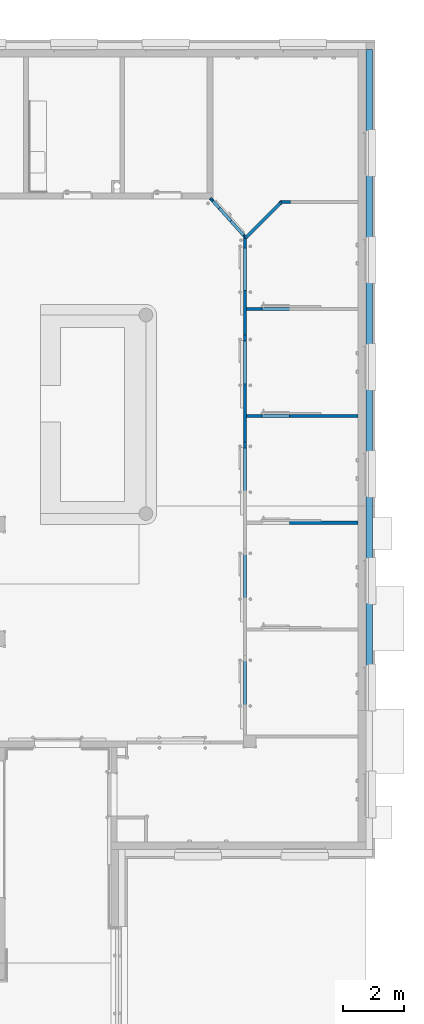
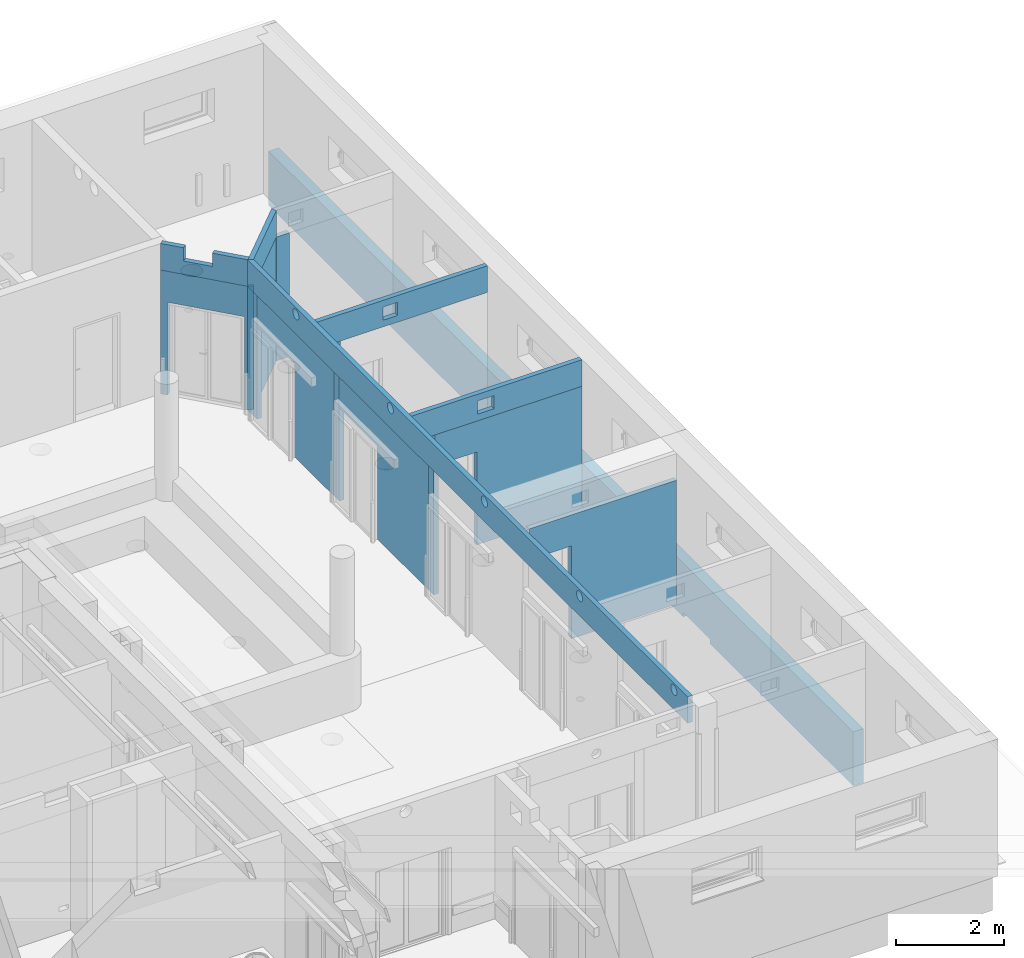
# One storey, part 58 of 140: 20 walls, 14 openings.
"""IFC4 building model written with IfcOpenShell, lengths in metres."""

from ifc_helpers import new_model, entity, si_unit, converted_unit, derived_unit, frame, frame_2d, origin, origin_with_axes, place, context, subcontext, project, spatial, polyline, rectangle, outline, extrude, material, layer, layer_set, layer_usage, element, save


model = new_model("IFC4")

# Units and contexts
model_context = context("Model", 3, precision=1e-05, world=origin())
body_context = subcontext(model_context, "Body", "Model", "MODEL_VIEW")
ifc_project = project(units=[si_unit("LENGTHUNIT", "METRE"), si_unit("AREAUNIT", "SQUARE_METRE"), si_unit("VOLUMEUNIT", "CUBIC_METRE"), si_unit("MASSUNIT", "GRAM", prefix="KILO"), converted_unit("PLANEANGLEUNIT", "DEGREE", entity("IfcPlaneAngleMeasure", 0.0174532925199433), si_unit("PLANEANGLEUNIT", "RADIAN"), dimensions=[0, 0, 0, 0, 0, 0, 0]), derived_unit("THERMALTRANSMITTANCEUNIT", [(si_unit("POWERUNIT", "WATT"), 1), (si_unit("THERMODYNAMICTEMPERATUREUNIT", "KELVIN"), -1), (si_unit("LENGTHUNIT", "METRE"), -2)]), derived_unit("VOLUMETRICFLOWRATEUNIT", [(si_unit("LENGTHUNIT", "METRE"), 3), (converted_unit("TIMEUNIT", "hour", entity("IfcTimeMeasure", 3600.0), si_unit("TIMEUNIT", "SECOND"), dimensions=[0, 0, 1, 0, 0, 0, 0]), -1), (si_unit("LENGTHUNIT", "METRE"), -1)])], contexts=[model_context])

# Site, building, storey
site_placement = place(None, origin())
site = spatial("IfcSite", under=ifc_project, at=site_placement, Name="3. ASŘ", CompositionType="ELEMENT")
building_placement = place(site_placement, origin())
building = spatial("IfcBuilding", under=site, at=building_placement, Name="Pavilon C", CompositionType="ELEMENT")
storey_placement = place(building_placement, origin())
storey = spatial("IfcBuildingStorey", under=building, at=storey_placement, Name="Půdorys 1.NP", CompositionType="ELEMENT", Elevation=0.0)

# Wall
ifc_material_1 = material(Name="PROSKLENÁ PŘÍČKA DVOJITÁ")
ifc_layer_1 = layer(ifc_material_1, 0.099999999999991)
ifc_layer_set_1 = layer_set([ifc_layer_1])
ifc_layer_usage_1 = layer_usage(ifc_layer_set_1, "AXIS2", "POSITIVE", 0.0)
wall_1_placement = place(storey_placement, frame((59.9282842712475, 26.3741212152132, 0.0), z_axis=(0.0, 0.0, 1.0), x_axis=(0.707106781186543, 0.707106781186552, 0.0)))
element("IfcWall", 1, at=wall_1_placement, inside=storey, material=ifc_layer_usage_1, Name="PROSKLENÁ PŘÍČKA DVOJITÁ", context=body_context, shape_type="SweptSolid", body=[
    extrude(rectangle(XDim=1.55223304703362, YDim=0.0999999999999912, at=frame_2d((0.776116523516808, 0.0499999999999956), x_axis=(1.0, 0.0))), origin_with_axes(), (0.0, 0.0, 1.0), 2.8),
])

# Wall, opening
ifc_material_2 = material(Name="PROSKLENÁ PŘÍČKA DVOJITÁ")
ifc_layer_2 = layer(ifc_material_2, 0.0999999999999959)
ifc_layer_set_2 = layer_set([ifc_layer_2])
ifc_layer_usage_2 = layer_usage(ifc_layer_set_2, "AXIS2", "POSITIVE", 0.0)
wall_2_placement = place(storey_placement, frame((58.665792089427, 27.65, 0.0), z_axis=(0.0, 0.0, 1.0), x_axis=(0.668228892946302, -0.743955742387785, 0.0)))
wall_2 = element("IfcWall", 2, at=wall_2_placement, inside=storey, material=ifc_layer_usage_2, Name="PROSKLENÁ PŘÍČKA DVOJITÁ", context=body_context, shape_type="SweptSolid", body=[
    extrude(outline(polyline([(-0.939423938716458, 0.843800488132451), (0.757910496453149, 0.843800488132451), (0.752548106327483, 0.943800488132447), (-0.849602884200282, 0.943800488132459), (-0.939423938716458, 0.843800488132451)])), frame((0.939423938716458, -0.843800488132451, 0.0), z_axis=(0.0, 0.0, 1.0), x_axis=(1.0, 0.0, 0.0)), (0.0, 0.0, 1.0), 2.8),
])
opening_1_placement = place(wall_2_placement, frame((0.136584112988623, 6.25277607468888e-16, 0.0), z_axis=(5.68434188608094e-15, 1.0, 0.0), x_axis=(0.0, 0.0, 1.0)))
element("IfcOpeningElement", 3, at=opening_1_placement, cuts=wall_2, Name="Dveřní otvor", ObjectType="Opening", context=body_context, shape_type="SweptSolid", body=[
    extrude(outline(polyline([(0.0, 1.49999999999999), (2.1, 1.49999999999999), (2.1, 0.0), (0.0, 0.0), (0.0, 1.49999999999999)])), origin_with_axes(), (0.0, 0.0, 1.0), 0.100000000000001),
])

# Walls
ifc_material_3 = material(Name="PROSKLENÁ PŘÍČKA PLNÝ PANEL")
ifc_layer_3 = layer(ifc_material_3, 0.1)
ifc_layer_set_3 = layer_set([ifc_layer_3])
ifc_layer_usage_3 = layer_usage(ifc_layer_set_3, "AXIS2", "POSITIVE", 0.0)
wall_3_placement = place(storey_placement, frame((59.9, 26.05, 0.0), z_axis=(0.0, 0.0, 1.0), x_axis=(0.0, 1.0, 0.0)))
element("IfcWall", 4, at=wall_3_placement, inside=storey, material=ifc_layer_usage_3, Name="PROSKLENÁ PŘÍČKA DVOJITÁ", context=body_context, shape_type="SweptSolid", body=[
    extrude(outline(polyline([(0.0, -0.1), (0.29583694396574, -0.1), (0.337258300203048, 0.0), (0.0, 0.0), (0.0, -0.1)])), frame((0.0, 0.1, 0.0), z_axis=(0.0, 0.0, 1.0), x_axis=(1.0, 0.0, 0.0)), (0.0, 0.0, 1.0), 2.8),
])
ifc_material_4 = material(Name="PROSKLENÁ PŘÍČKA PLNÝ PANEL")
ifc_layer_4 = layer(ifc_material_4, 0.1)
ifc_layer_set_4 = layer_set([ifc_layer_4])
ifc_layer_usage_4 = layer_usage(ifc_layer_set_4, "AXIS2", "POSITIVE", 0.0)
wall_4_placement = place(storey_placement, frame((59.9, 23.0, 0.0), z_axis=(0.0, 0.0, 1.0), x_axis=(0.0, 1.0, 0.0)))
element("IfcWall", 5, at=wall_4_placement, inside=storey, material=ifc_layer_usage_4, Name="PROSKLENÁ PŘÍČKA DVOJITÁ", context=body_context, shape_type="SweptSolid", body=[
    extrude(rectangle(XDim=0.2, YDim=0.1, at=frame_2d((0.1, 0.05), x_axis=(1.0, 0.0))), origin_with_axes(), (0.0, 0.0, 1.0), 2.8),
])
ifc_material_5 = material(Name="PROSKLENÁ PŘÍČKA PLNÝ PANEL")
ifc_layer_5 = layer(ifc_material_5, 0.1)
ifc_layer_set_5 = layer_set([ifc_layer_5])
ifc_layer_usage_5 = layer_usage(ifc_layer_set_5, "AXIS2", "POSITIVE", 0.0)
wall_5_placement = place(storey_placement, frame((59.9, 19.5, 0.0), z_axis=(0.0, 0.0, 1.0), x_axis=(0.0, 1.0, 0.0)))
element("IfcWall", 6, at=wall_5_placement, inside=storey, material=ifc_layer_usage_5, Name="PROSKLENÁ PŘÍČKA DVOJITÁ", context=body_context, shape_type="SweptSolid", body=[
    extrude(rectangle(XDim=0.2, YDim=0.1, at=frame_2d((0.1, 0.05), x_axis=(1.0, 0.0))), origin_with_axes(), (0.0, 0.0, 1.0), 2.8),
])

# Wall, opening
ifc_material_6 = material(Name="PROSKLENÁ PŘÍČKA DVOJITÁ")
ifc_layer_6 = layer(ifc_material_6, 0.1)
ifc_layer_set_6 = layer_set([ifc_layer_6])
ifc_layer_usage_6 = layer_usage(ifc_layer_set_6, "AXIS2", "POSITIVE", 0.0)
wall_6_placement = place(storey_placement, frame((59.9, 23.2, 0.0), z_axis=(0.0, 0.0, 1.0), x_axis=(0.0, 1.0, 0.0)))
wall_6 = element("IfcWall", 7, at=wall_6_placement, inside=storey, material=ifc_layer_usage_6, Name="PROSKLENÁ PŘÍČKA DVOJITÁ", context=body_context, shape_type="SweptSolid", body=[
    extrude(rectangle(XDim=2.85, YDim=0.1, at=frame_2d((1.425, 0.05), x_axis=(1.0, 0.0))), origin_with_axes(), (0.0, 0.0, 1.0), 2.8),
])
opening_2_placement = place(wall_6_placement, frame((2.85, 0.1, 0.0), z_axis=(0.0, -1.0, 0.0), x_axis=(0.0, 0.0, 1.0)))
element("IfcOpeningElement", 8, at=opening_2_placement, cuts=wall_6, Name="Dveřní otvor", ObjectType="Opening", context=body_context, shape_type="SweptSolid", body=[
    extrude(outline(polyline([(0.0, 1.4), (2.1, 1.4), (2.1, 0.0), (0.0, 0.0), (0.0, 1.4)])), origin_with_axes(), (0.0, 0.0, 1.0), 0.1),
])

ifc_material_7 = material(Name="PROSKLENÁ PŘÍČKA DVOJITÁ")
ifc_layer_7 = layer(ifc_material_7, 0.1)
ifc_layer_set_7 = layer_set([ifc_layer_7])
ifc_layer_usage_7 = layer_usage(ifc_layer_set_7, "AXIS2", "POSITIVE", 0.0)
wall_7_placement = place(storey_placement, frame((59.8, 23.0, 0.0), z_axis=(0.0, 0.0, 1.0), x_axis=(0.0, -1.0, 0.0)))
wall_7 = element("IfcWall", 9, at=wall_7_placement, inside=storey, material=ifc_layer_usage_7, Name="PROSKLENÁ PŘÍČKA DVOJITÁ", context=body_context, shape_type="SweptSolid", body=[
    extrude(rectangle(XDim=3.30000000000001, YDim=0.1, at=frame_2d((1.65, 0.05), x_axis=(1.0, 0.0))), origin_with_axes(), (0.0, 0.0, 1.0), 2.8),
])
opening_3_placement = place(wall_7_placement, frame((0.0, 0.0, 0.0), z_axis=(0.0, 1.0, 0.0), x_axis=(0.0, 0.0, 1.0)))
element("IfcOpeningElement", 10, at=opening_3_placement, cuts=wall_7, Name="Dveřní otvor", ObjectType="Opening", context=body_context, shape_type="SweptSolid", body=[
    extrude(outline(polyline([(0.0, 1.4), (2.1, 1.4), (2.1, 0.0), (0.0, 0.0), (0.0, 1.4)])), origin_with_axes(), (0.0, 0.0, 1.0), 0.1),
])

ifc_material_8 = material(Name="PROSKLENÁ PŘÍČKA DVOJITÁ")
ifc_layer_8 = layer(ifc_material_8, 0.1)
ifc_layer_set_8 = layer_set([ifc_layer_8])
ifc_layer_usage_8 = layer_usage(ifc_layer_set_8, "AXIS2", "POSITIVE", 0.0)
wall_8_placement = place(storey_placement, frame((60.4, 17.0, 0.0)))
wall_8 = element("IfcWall", 11, at=wall_8_placement, inside=storey, material=ifc_layer_usage_8, Name="PROSKLENÁ PŘÍČKA DVOJITÁ", context=body_context, shape_type="SweptSolid", body=[
    extrude(rectangle(XDim=3.15, YDim=0.1, at=frame_2d((1.575, 0.05), x_axis=(1.0, 0.0))), origin_with_axes(), (0.0, 0.0, 1.0), 2.8),
])
opening_4_placement = place(wall_8_placement, frame((0.0, 0.0, 0.0), z_axis=(0.0, 1.0, 0.0), x_axis=(0.0, 0.0, 1.0)))
element("IfcOpeningElement", 12, at=opening_4_placement, cuts=wall_8, Name="Dveřní otvor", ObjectType="Opening", context=body_context, shape_type="SweptSolid", body=[
    extrude(outline(polyline([(0.0, 0.9), (2.1, 0.9), (2.1, 0.0), (0.0, 0.0), (0.0, 0.9)])), origin_with_axes(), (0.0, 0.0, 1.0), 0.1),
])

ifc_material_9 = material(Name="PROSKLENÁ PŘÍČKA DVOJITÁ")
ifc_layer_9 = layer(ifc_material_9, 0.1)
ifc_layer_set_9 = layer_set([ifc_layer_9])
ifc_layer_usage_9 = layer_usage(ifc_layer_set_9, "AXIS2", "POSITIVE", 0.0)
wall_9_placement = place(storey_placement, frame((60.4, 20.5, 0.0)))
wall_9 = element("IfcWall", 13, at=wall_9_placement, inside=storey, material=ifc_layer_usage_9, Name="PROSKLENÁ PŘÍČKA DVOJITÁ", context=body_context, shape_type="SweptSolid", body=[
    extrude(rectangle(XDim=3.15, YDim=0.1, at=frame_2d((1.575, 0.05), x_axis=(1.0, 0.0))), origin_with_axes(), (0.0, 0.0, 1.0), 2.8),
])
opening_5_placement = place(wall_9_placement, frame((0.0, 0.0, 0.0), z_axis=(0.0, 1.0, 0.0), x_axis=(0.0, 0.0, 1.0)))
element("IfcOpeningElement", 14, at=opening_5_placement, cuts=wall_9, Name="Dveřní otvor", ObjectType="Opening", context=body_context, shape_type="SweptSolid", body=[
    extrude(outline(polyline([(0.0, 0.9), (2.1, 0.9), (2.1, 0.0), (0.0, 0.0), (0.0, 0.9)])), origin_with_axes(), (0.0, 0.0, 1.0), 0.1),
])

# Walls
ifc_material_10 = material(Name="PROSKLENÁ PŘÍČKA PLNÝ PANEL")
ifc_layer_10 = layer(ifc_material_10, 0.1)
ifc_layer_set_10 = layer_set([ifc_layer_10])
ifc_layer_usage_10 = layer_usage(ifc_layer_set_10, "AXIS2", "POSITIVE", 0.0)
wall_10_placement = place(storey_placement, frame((60.4, 20.6, 0.0), z_axis=(0.0, 0.0, 1.0), x_axis=(-1.0, 0.0, 0.0)))
element("IfcWall", 15, at=wall_10_placement, inside=storey, material=ifc_layer_usage_10, Name="PROSKLENÁ PŘÍČKA DVOJITÁ", context=body_context, shape_type="SweptSolid", body=[
    extrude(rectangle(XDim=0.5, YDim=0.1, at=frame_2d((0.25, 0.05), x_axis=(1.0, 0.0))), origin_with_axes(), (0.0, 0.0, 1.0), 2.8),
])
ifc_material_11 = material(Name="PROSKLENÁ PŘÍČKA PLNÝ PANEL")
ifc_layer_11 = layer(ifc_material_11, 0.1)
ifc_layer_set_11 = layer_set([ifc_layer_11])
ifc_layer_usage_11 = layer_usage(ifc_layer_set_11, "AXIS2", "POSITIVE", 0.0)
wall_11_placement = place(storey_placement, frame((60.4, 24.1, 0.0), z_axis=(0.0, 0.0, 1.0), x_axis=(-1.0, 0.0, 0.0)))
element("IfcWall", 16, at=wall_11_placement, inside=storey, material=ifc_layer_usage_11, Name="PROSKLENÁ PŘÍČKA DVOJITÁ", context=body_context, shape_type="SweptSolid", body=[
    extrude(rectangle(XDim=0.5, YDim=0.1, at=frame_2d((0.25, 0.05), x_axis=(1.0, 0.0))), origin_with_axes(), (0.0, 0.0, 1.0), 2.8),
])
ifc_material_12 = material(Name="PROSKLENÁ PŘÍČKA PLNÝ PANEL")
ifc_layer_12 = layer(ifc_material_12, 0.1)
ifc_layer_set_12 = layer_set([ifc_layer_12])
ifc_layer_usage_12 = layer_usage(ifc_layer_set_12, "AXIS2", "POSITIVE", 0.0)
wall_12_placement = place(storey_placement, frame((61.0541630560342, 27.5, 0.0)))
element("IfcWall", 17, at=wall_12_placement, inside=storey, material=ifc_layer_usage_12, Name="PROSKLENÁ PŘÍČKA DVOJITÁ", context=body_context, shape_type="SweptSolid", body=[
    extrude(outline(polyline([(0.0414213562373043, 0.0), (0.321421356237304, 0.0), (0.321421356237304, 0.1), (0.0, 0.1), (0.0414213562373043, 0.0)])), frame((-0.0414213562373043, 0.0, 0.0), z_axis=(0.0, 0.0, 1.0), x_axis=(1.0, 0.0, 0.0)), (0.0, 0.0, 1.0), 2.8),
])
ifc_material_13 = material(Name="PROSKLENÁ PŘÍČKA PLNÝ PANEL")
ifc_layer_13 = layer(ifc_material_13, 0.0999999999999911)
ifc_layer_set_13 = layer_set([ifc_layer_13])
ifc_layer_usage_13 = layer_usage(ifc_layer_set_13, "AXIS2", "POSITIVE", 0.0)
wall_13_placement = place(storey_placement, frame((61.0258787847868, 27.4717157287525, 0.0), z_axis=(0.0, 0.0, 1.0), x_axis=(0.707106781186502, 0.707106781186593, 0.0)))
element("IfcWall", 18, at=wall_13_placement, inside=storey, material=ifc_layer_usage_13, Name="PROSKLENÁ PŘÍČKA DVOJITÁ", context=body_context, shape_type="SweptSolid", body=[
    extrude(outline(polyline([(0.0499999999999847, -0.0499999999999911), (0.0899999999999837, -0.0499999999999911), (0.131421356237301, 0.05), (0.0499999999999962, 0.0499999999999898), (0.0499999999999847, -0.0499999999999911)])), frame((-0.0499999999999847, 0.0499999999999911, 0.0), z_axis=(0.0, 0.0, 1.0), x_axis=(1.0, 0.0, 0.0)), (0.0, 0.0, 1.0), 2.8),
])
ifc_material_14 = material(Name="PROSKLENÁ PŘÍČKA PLNÝ PANEL")
ifc_layer_14 = layer(ifc_material_14, 0.0999999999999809)
ifc_layer_set_14 = layer_set([ifc_layer_14])
ifc_layer_usage_14 = layer_usage(ifc_layer_set_14, "AXIS2", "POSITIVE", 0.0)
wall_14_placement = place(storey_placement, frame((59.9, 26.3458369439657, 0.0), z_axis=(0.0, 0.0, 1.0), x_axis=(0.707106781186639, 0.707106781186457, 0.0)))
element("IfcWall", 19, at=wall_14_placement, inside=storey, material=ifc_layer_usage_14, Name="PROSKLENÁ PŘÍČKA DVOJITÁ", context=body_context, shape_type="SweptSolid", body=[
    extrude(outline(polyline([(0.0707106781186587, -0.0707106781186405), (0.11071067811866, -0.0707106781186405), (0.110710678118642, 0.0292893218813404), (0.0292893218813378, 0.0292893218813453), (0.0707106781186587, -0.0707106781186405)])), frame((-0.0707106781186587, 0.0707106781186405, 0.0), z_axis=(0.0, 0.0, 1.0), x_axis=(1.0, 0.0, 0.0)), (0.0, 0.0, 1.0), 2.8),
])

# Wall, opening
ifc_material_15 = material(Name="PERIMETR")
ifc_layer_15 = layer(ifc_material_15, 0.22)
ifc_layer_set_15 = layer_set([ifc_layer_15])
ifc_layer_usage_15 = layer_usage(ifc_layer_set_15, "AXIS2", "POSITIVE", 0.0)
wall_15_placement = place(storey_placement, frame((63.8, 32.55, -0.5), z_axis=(0.0, 0.0, 1.0), x_axis=(0.0, -1.0, 0.0)))
wall_15 = element("IfcWall", 20, at=wall_15_placement, inside=storey, material=ifc_layer_usage_15, Name="PERIMETR", context=body_context, shape_type="SweptSolid", body=[
    extrude(rectangle(XDim=21.65, YDim=0.22, at=frame_2d((10.825, 0.11), x_axis=(1.0, 0.0))), origin_with_axes(), (0.0, 0.0, 1.0), 1.22),
])
opening_6_placement = place(wall_15_placement, frame((16.35, 0.22, 0.0), z_axis=(0.0, -1.0, 0.0), x_axis=(0.0, 0.0, 1.0)))
element("IfcOpeningElement", 21, at=opening_6_placement, cuts=wall_15, Name="Prostup stěnou", ObjectType="Opening", context=body_context, shape_type="SweptSolid", body=[
    extrude(outline(polyline([(0.0, 0.999999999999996), (0.1, 0.999999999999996), (0.1, 0.0), (0.0, 0.0), (0.0, 0.999999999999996)])), origin_with_axes(), (0.0, 0.0, 1.0), 0.22),
])

# Wall, openings
ifc_material_16 = material(Name="SDK - OCEL. KCE + 2 OPLÁŠTĚNÍ")
ifc_layer_16 = layer(ifc_material_16, 0.0999999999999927)
ifc_layer_set_16 = layer_set([ifc_layer_16])
ifc_layer_usage_16 = layer_usage(ifc_layer_set_16, "AXIS2", "POSITIVE", 0.0)
wall_16_placement = place(storey_placement, frame((59.9, 10.1, 2.8), z_axis=(0.0, 0.0, 1.0), x_axis=(-8.95731951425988e-16, 1.0, 0.0)))
wall_16 = element("IfcWall", 22, at=wall_16_placement, inside=storey, material=ifc_layer_usage_16, Name="SDK - OCEL. KCE + 2 OPLÁŠTĚNÍ", context=body_context, shape_type="SweptSolid", body=[
    extrude(outline(polyline([(-8.95731951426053e-17, -0.100000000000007), (16.2458369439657, -0.100000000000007), (16.2872583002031, -1.458901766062e-14), (-6.5173077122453e-30, -7.27595761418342e-15), (-8.95731951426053e-17, -0.100000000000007)])), frame((8.95731951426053e-17, 0.100000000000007, 0.0), z_axis=(0.0, 0.0, 1.0), x_axis=(1.0, 0.0, 0.0)), (0.0, 0.0, 1.0), 0.6),
])
opening_7_placement = place(wall_16_placement, frame((14.6165, 0.0999999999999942, 0.337500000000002), z_axis=(0.0, -1.0, 0.0), x_axis=(0.0, 0.0, 1.0)))
element("IfcOpeningElement", 23, at=opening_7_placement, cuts=wall_16, Name="VZT", ObjectType="Opening", context=body_context, shape_type="SweptSolid", body=[
    extrude(outline(polyline([(0.106457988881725, 0.0), (0.0947469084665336, 0.00123088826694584), (0.0832286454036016, 0.0036791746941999), (0.0720293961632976, 0.00731803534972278), (0.0612718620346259, 0.0121076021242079), (0.0510739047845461, 0.0179953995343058), (0.0415472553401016, 0.0249169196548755), (0.0327962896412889, 0.032796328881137), (0.0249168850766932, 0.0415472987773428), (0.017995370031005, 0.0510739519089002), (0.0121075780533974, 0.0612719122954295), (0.00731801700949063, 0.0720294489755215), (0.00367916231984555, 0.0832287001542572), (0.00123088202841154, 0.0947469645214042), (0.0, 0.106458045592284), (2.03247554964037e-09, 0.11823363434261), (0.00123088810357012, 0.129944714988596), (0.00367917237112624, 0.141462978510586), (0.00731803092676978, 0.152662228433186), (0.0121075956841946, 0.163419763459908), (0.0179953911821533, 0.17361772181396), (0.0249169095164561, 0.183144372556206), (0.0327963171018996, 0.191895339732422), (0.0415472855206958, 0.199774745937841), (0.0510739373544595, 0.206696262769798), (0.0612718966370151, 0.212584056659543), (0.0720294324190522, 0.217373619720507), (0.0832286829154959, 0.221012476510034), (0.0947469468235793, 0.22346075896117), (0.106458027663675, 0.224691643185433), (0.118233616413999, 0.2246916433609), (0.129944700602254, 0.223460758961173), (0.141462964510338, 0.221012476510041), (0.152662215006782, 0.217373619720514), (0.16341975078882, 0.212584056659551), (0.173617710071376, 0.206696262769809), (0.183144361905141, 0.199774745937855), (0.191895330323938, 0.191895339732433), (0.199774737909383, 0.18314437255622), (0.206696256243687, 0.173617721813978), (0.212584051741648, 0.163419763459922), (0.217373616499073, 0.152662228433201), (0.221012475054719, 0.141462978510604), (0.223460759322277, 0.129944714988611), (0.224691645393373, 0.118233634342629), (0.22469164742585, 0.106458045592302), (0.22346076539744, 0.0947469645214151), (0.221012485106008, 0.0832287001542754), (0.217373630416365, 0.0720294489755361), (0.212584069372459, 0.0612719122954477), (0.206696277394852, 0.0510739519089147), (0.199774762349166, 0.0415472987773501), (0.191895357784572, 0.0327963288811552), (0.18314439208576, 0.0249169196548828), (0.173617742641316, 0.0179953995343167), (0.163419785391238, 0.0121076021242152), (0.152662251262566, 0.00731803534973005), (0.141463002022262, 0.00367917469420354), (0.129944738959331, 0.00123088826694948), (0.11823365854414, 0.0), (0.106457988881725, 0.0)])), origin_with_axes(), (0.0, 0.0, 1.0), 0.0999999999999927),
])
opening_8_placement = place(wall_16_placement, frame((11.1195, 0.09999999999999, 0.337500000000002), z_axis=(0.0, -1.0, 0.0), x_axis=(0.0, 0.0, 1.0)))
element("IfcOpeningElement", 24, at=opening_8_placement, cuts=wall_16, Name="VZT", ObjectType="Opening", context=body_context, shape_type="SweptSolid", body=[
    extrude(outline(polyline([(0.106457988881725, 0.0), (0.0947469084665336, 0.00123088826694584), (0.0832286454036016, 0.0036791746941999), (0.0720293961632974, 0.00731803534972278), (0.0612718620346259, 0.0121076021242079), (0.0510739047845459, 0.0179953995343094), (0.0415472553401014, 0.0249169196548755), (0.0327962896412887, 0.0327963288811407), (0.0249168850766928, 0.0415472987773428), (0.017995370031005, 0.0510739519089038), (0.0121075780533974, 0.0612719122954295), (0.00731801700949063, 0.0720294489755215), (0.00367916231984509, 0.0832287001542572), (0.00123088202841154, 0.0947469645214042), (0.0, 0.106458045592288), (2.03247554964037e-09, 0.118233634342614), (0.0012308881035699, 0.129944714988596), (0.00367917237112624, 0.141462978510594), (0.00731803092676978, 0.152662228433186), (0.0121075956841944, 0.163419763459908), (0.0179953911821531, 0.173617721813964), (0.0249169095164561, 0.183144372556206), (0.0327963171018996, 0.191895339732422), (0.0415472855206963, 0.199774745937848), (0.0510739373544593, 0.206696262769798), (0.0612718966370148, 0.212584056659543), (0.0720294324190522, 0.217373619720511), (0.0832286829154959, 0.221012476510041), (0.094746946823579, 0.223460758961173), (0.106458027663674, 0.22469164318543), (0.118233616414, 0.2246916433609), (0.129944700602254, 0.22346075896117), (0.141462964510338, 0.221012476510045), (0.152662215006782, 0.217373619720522), (0.16341975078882, 0.212584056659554), (0.173617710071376, 0.206696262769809), (0.183144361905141, 0.199774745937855), (0.191895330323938, 0.19189533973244), (0.199774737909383, 0.18314437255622), (0.206696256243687, 0.173617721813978), (0.212584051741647, 0.163419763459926), (0.217373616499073, 0.152662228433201), (0.221012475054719, 0.141462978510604), (0.223460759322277, 0.129944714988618), (0.224691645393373, 0.118233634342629), (0.22469164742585, 0.106458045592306), (0.22346076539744, 0.0947469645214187), (0.221012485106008, 0.0832287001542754), (0.217373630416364, 0.0720294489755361), (0.212584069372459, 0.0612719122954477), (0.206696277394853, 0.0510739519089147), (0.199774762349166, 0.0415472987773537), (0.191895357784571, 0.0327963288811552), (0.18314439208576, 0.0249169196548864), (0.173617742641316, 0.0179953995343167), (0.163419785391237, 0.0121076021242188), (0.152662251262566, 0.00731803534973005), (0.141463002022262, 0.00367917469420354), (0.129944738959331, 0.00123088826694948), (0.11823365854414, 0.0), (0.106457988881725, 0.0)])), origin_with_axes(), (0.0, 0.0, 1.0), 0.0999999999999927),
])
opening_9_placement = place(wall_16_placement, frame((7.63441623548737, 0.0999999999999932, 0.337500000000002), z_axis=(0.0, -1.0, 0.0), x_axis=(0.0, 0.0, 1.0)))
element("IfcOpeningElement", 25, at=opening_9_placement, cuts=wall_16, Name="VZT", ObjectType="Opening", context=body_context, shape_type="SweptSolid", body=[
    extrude(outline(polyline([(0.106457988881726, 0.0), (0.094746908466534, 0.00123088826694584), (0.0832286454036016, 0.00367917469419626), (0.0720293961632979, 0.00731803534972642), (0.0612718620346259, 0.0121076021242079), (0.0510739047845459, 0.0179953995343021), (0.0415472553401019, 0.0249169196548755), (0.0327962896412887, 0.0327963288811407), (0.0249168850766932, 0.0415472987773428), (0.0179953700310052, 0.0510739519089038), (0.0121075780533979, 0.0612719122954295), (0.00731801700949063, 0.0720294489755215), (0.00367916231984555, 0.0832287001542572), (0.00123088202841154, 0.0947469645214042), (0.0, 0.106458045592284), (2.03247554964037e-09, 0.118233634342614), (0.00123088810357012, 0.129944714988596), (0.00367917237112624, 0.141462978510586), (0.00731803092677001, 0.152662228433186), (0.0121075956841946, 0.163419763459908), (0.0179953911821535, 0.173617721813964), (0.0249169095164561, 0.183144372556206), (0.0327963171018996, 0.191895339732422), (0.0415472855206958, 0.199774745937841), (0.0510739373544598, 0.206696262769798), (0.0612718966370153, 0.212584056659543), (0.0720294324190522, 0.217373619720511), (0.0832286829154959, 0.221012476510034), (0.0947469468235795, 0.22346075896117), (0.106458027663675, 0.22469164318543), (0.118233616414, 0.2246916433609), (0.129944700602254, 0.22346075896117), (0.141462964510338, 0.221012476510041), (0.152662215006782, 0.217373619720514), (0.16341975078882, 0.212584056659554), (0.173617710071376, 0.206696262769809), (0.183144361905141, 0.199774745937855), (0.191895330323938, 0.191895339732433), (0.199774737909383, 0.18314437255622), (0.206696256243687, 0.173617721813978), (0.212584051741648, 0.163419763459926), (0.217373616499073, 0.152662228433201), (0.221012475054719, 0.141462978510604), (0.223460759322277, 0.129944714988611), (0.224691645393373, 0.118233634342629), (0.22469164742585, 0.106458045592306), (0.22346076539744, 0.0947469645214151), (0.221012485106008, 0.0832287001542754), (0.217373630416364, 0.0720294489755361), (0.212584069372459, 0.0612719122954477), (0.206696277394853, 0.0510739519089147), (0.199774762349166, 0.0415472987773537), (0.191895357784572, 0.0327963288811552), (0.18314439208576, 0.0249169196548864), (0.173617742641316, 0.0179953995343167), (0.163419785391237, 0.0121076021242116), (0.152662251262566, 0.00731803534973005), (0.141463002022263, 0.00367917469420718), (0.129944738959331, 0.00123088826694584), (0.11823365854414, 0.0), (0.106457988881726, 0.0)])), origin_with_axes(), (0.0, 0.0, 1.0), 0.0999999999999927),
])
opening_10_placement = place(wall_16_placement, frame((4.1145, 0.100000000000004, 0.337500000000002), z_axis=(0.0, -1.0, 0.0), x_axis=(0.0, 0.0, 1.0)))
element("IfcOpeningElement", 26, at=opening_10_placement, cuts=wall_16, Name="VZT", ObjectType="Opening", context=body_context, shape_type="SweptSolid", body=[
    extrude(outline(polyline([(0.106457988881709, 0.0), (0.0947469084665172, 0.00123088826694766), (0.0832286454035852, 0.00367917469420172), (0.0720293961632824, 0.00731803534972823), (0.0612718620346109, 0.012107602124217), (0.0510739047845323, 0.017995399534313), (0.0415472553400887, 0.0249169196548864), (0.0327962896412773, 0.0327963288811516), (0.0249168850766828, 0.0415472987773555), (0.0179953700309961, 0.0510739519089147), (0.0121075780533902, 0.0612719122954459), (0.00731801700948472, 0.0720294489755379), (0.003679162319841, 0.0832287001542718), (0.00123088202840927, 0.0947469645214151), (0.0, 0.106458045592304), (2.03247736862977e-09, 0.118233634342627), (0.00123088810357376, 0.129944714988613), (0.00367917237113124, 0.141462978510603), (0.00731803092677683, 0.152662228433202), (0.0121075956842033, 0.163419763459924), (0.0179953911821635, 0.173617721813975), (0.024916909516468, 0.183144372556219), (0.0327963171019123, 0.191895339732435), (0.0415472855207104, 0.199774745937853), (0.0510739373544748, 0.206696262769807), (0.0612718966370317, 0.212584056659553), (0.0720294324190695, 0.217373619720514), (0.0832286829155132, 0.221012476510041), (0.0947469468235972, 0.223460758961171), (0.106458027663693, 0.224691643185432), (0.118233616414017, 0.224691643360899), (0.129944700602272, 0.223460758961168), (0.141462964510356, 0.221012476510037), (0.152662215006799, 0.217373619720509), (0.163419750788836, 0.212584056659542), (0.173617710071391, 0.206696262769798), (0.183144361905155, 0.199774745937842), (0.191895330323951, 0.191895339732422), (0.199774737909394, 0.183144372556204), (0.206696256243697, 0.17361772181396), (0.212584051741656, 0.163419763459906), (0.21737361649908, 0.152662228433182), (0.221012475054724, 0.141462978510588), (0.22346075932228, 0.129944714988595), (0.224691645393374, 0.11823363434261), (0.22469164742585, 0.106458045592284), (0.223460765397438, 0.0947469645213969), (0.221012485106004, 0.0832287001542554), (0.217373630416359, 0.0720294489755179), (0.212584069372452, 0.0612719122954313), (0.206696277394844, 0.0510739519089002), (0.199774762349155, 0.0415472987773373), (0.19189535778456, 0.0327963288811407), (0.183144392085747, 0.0249169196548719), (0.173617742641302, 0.0179953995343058), (0.163419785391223, 0.0121076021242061), (0.152662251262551, 0.0073180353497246), (0.141463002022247, 0.00367917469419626), (0.129944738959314, 0.00123088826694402), (0.118233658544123, 0.0), (0.106457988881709, 0.0)])), origin_with_axes(), (0.0, 0.0, 1.0), 0.0999999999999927),
])
opening_11_placement = place(wall_16_placement, frame((0.619499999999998, 0.100000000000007, 0.337500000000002), z_axis=(-1.13686837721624e-15, -1.0, 0.0), x_axis=(0.0, 0.0, 1.0)))
element("IfcOpeningElement", 27, at=opening_11_placement, cuts=wall_16, Name="VZT", ObjectType="Opening", context=body_context, shape_type="SweptSolid", body=[
    extrude(outline(polyline([(0.106457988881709, 0.0), (0.0947469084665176, 0.00123088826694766), (0.0832286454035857, 0.00367917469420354), (0.0720293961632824, 0.00731803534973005), (0.0612718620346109, 0.0121076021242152), (0.0510739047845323, 0.017995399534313), (0.0415472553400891, 0.0249169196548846), (0.0327962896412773, 0.0327963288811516), (0.0249168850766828, 0.0415472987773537), (0.0179953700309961, 0.0510739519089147), (0.0121075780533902, 0.0612719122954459), (0.00731801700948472, 0.0720294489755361), (0.00367916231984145, 0.0832287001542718), (0.00123088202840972, 0.0947469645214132), (0.0, 0.106458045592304), (2.03247736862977e-09, 0.118233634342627), (0.00123088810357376, 0.129944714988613), (0.0036791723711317, 0.141462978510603), (0.00731803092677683, 0.152662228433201), (0.0121075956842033, 0.163419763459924), (0.0179953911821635, 0.173617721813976), (0.024916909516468, 0.183144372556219), (0.0327963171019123, 0.191895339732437), (0.0415472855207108, 0.199774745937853), (0.0510739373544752, 0.206696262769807), (0.0612718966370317, 0.212584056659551), (0.0720294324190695, 0.217373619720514), (0.0832286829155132, 0.221012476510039), (0.0947469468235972, 0.22346075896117), (0.106458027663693, 0.224691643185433), (0.118233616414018, 0.224691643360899), (0.129944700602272, 0.22346075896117), (0.141462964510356, 0.221012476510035), (0.152662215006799, 0.217373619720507), (0.163419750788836, 0.212584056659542), (0.173617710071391, 0.206696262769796), (0.183144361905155, 0.199774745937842), (0.191895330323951, 0.191895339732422), (0.199774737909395, 0.183144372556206), (0.206696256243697, 0.17361772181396), (0.212584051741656, 0.163419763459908), (0.21737361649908, 0.152662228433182), (0.221012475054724, 0.141462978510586), (0.22346075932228, 0.129944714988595), (0.224691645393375, 0.11823363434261), (0.22469164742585, 0.106458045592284), (0.223460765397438, 0.0947469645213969), (0.221012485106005, 0.0832287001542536), (0.217373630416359, 0.0720294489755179), (0.212584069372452, 0.0612719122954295), (0.206696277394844, 0.0510739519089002), (0.199774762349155, 0.0415472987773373), (0.19189535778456, 0.0327963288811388), (0.183144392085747, 0.0249169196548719), (0.173617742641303, 0.0179953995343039), (0.163419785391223, 0.0121076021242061), (0.152662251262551, 0.00731803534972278), (0.141463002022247, 0.00367917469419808), (0.129944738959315, 0.00123088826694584), (0.118233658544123, 0.0), (0.106457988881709, 0.0)])), origin_with_axes(), (0.0, 0.0, 1.0), 0.0999999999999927),
])

# Wall
ifc_material_17 = material(Name="SDK - OCEL. KCE + 2 OPLÁŠTĚNÍ")
ifc_layer_17 = layer(ifc_material_17, 0.0999999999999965)
ifc_layer_set_17 = layer_set([ifc_layer_17])
ifc_layer_usage_17 = layer_usage(ifc_layer_set_17, "AXIS2", "POSITIVE", 0.0)
wall_17_placement = place(storey_placement, frame((59.9, 26.3458369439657, 2.8), z_axis=(0.0, 0.0, 1.0), x_axis=(0.70710678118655, 0.707106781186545, 0.0)))
element("IfcWall", 28, at=wall_17_placement, inside=storey, material=ifc_layer_usage_17, Name="SDK - OCEL. KCE + 2 OPLÁŠTĚNÍ", context=body_context, shape_type="SweptSolid", body=[
    extrude(outline(polyline([(0.070710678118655, -0.0707106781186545), (1.70294372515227, -0.0707106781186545), (1.74436508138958, 0.0292893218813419), (0.129432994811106, 0.0292893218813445), (0.129145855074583, 0.0239346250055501), (0.029289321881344, 0.0292893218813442), (0.070710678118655, -0.0707106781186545)])), frame((-0.070710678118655, 0.0707106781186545, 0.0), z_axis=(0.0, 0.0, 1.0), x_axis=(1.0, 0.0, 0.0)), (0.0, 0.0, 1.0), 0.6),
])

# Wall, opening
ifc_material_18 = material(Name="SDK - OCEL. KCE + 2 OPLÁŠTĚNÍ")
ifc_layer_18 = layer(ifc_material_18, 0.1)
ifc_layer_set_18 = layer_set([ifc_layer_18])
ifc_layer_usage_18 = layer_usage(ifc_layer_set_18, "AXIS2", "POSITIVE", 0.0)
wall_18_placement = place(storey_placement, frame((59.9, 24.0, 2.8)))
wall_18 = element("IfcWall", 29, at=wall_18_placement, inside=storey, material=ifc_layer_usage_18, Name="SDK - OCEL. KCE + 2 OPLÁŠTĚNÍ", context=body_context, shape_type="SweptSolid", body=[
    extrude(rectangle(XDim=3.65, YDim=0.1, at=frame_2d((1.825, 0.05), x_axis=(1.0, 0.0))), origin_with_axes(), (0.0, 0.0, 1.0), 0.6),
])
opening_12_placement = place(wall_18_placement, frame((1.41555377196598, 7.27595761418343e-15, 0.15), z_axis=(0.0, 1.0, 0.0), x_axis=(0.0, 0.0, 1.0)))
element("IfcOpeningElement", 30, at=opening_12_placement, cuts=wall_18, Name="VZT", ObjectType="Opening", context=body_context, shape_type="SweptSolid", body=[
    extrude(outline(polyline([(0.0, 0.31), (0.3, 0.31), (0.3, 0.0), (0.0, 0.0), (0.0, 0.31)])), origin_with_axes(), (0.0, 0.0, 1.0), 0.1),
])

ifc_material_19 = material(Name="SDK - OCEL. KCE + 2 OPLÁŠTĚNÍ")
ifc_layer_19 = layer(ifc_material_19, 0.1)
ifc_layer_set_19 = layer_set([ifc_layer_19])
ifc_layer_usage_19 = layer_usage(ifc_layer_set_19, "AXIS2", "POSITIVE", 0.0)
wall_19_placement = place(storey_placement, frame((59.9, 20.5, 2.8)))
wall_19 = element("IfcWall", 31, at=wall_19_placement, inside=storey, material=ifc_layer_usage_19, Name="SDK - OCEL. KCE + 2 OPLÁŠTĚNÍ", context=body_context, shape_type="SweptSolid", body=[
    extrude(rectangle(XDim=3.65, YDim=0.1, at=frame_2d((1.825, 0.05), x_axis=(1.0, 0.0))), origin_with_axes(), (0.0, 0.0, 1.0), 0.6),
])
opening_13_placement = place(wall_19_placement, frame((1.41555377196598, 0.0, 0.15), z_axis=(0.0, 1.0, 0.0), x_axis=(0.0, 0.0, 1.0)))
element("IfcOpeningElement", 32, at=opening_13_placement, cuts=wall_19, Name="VZT", ObjectType="Opening", context=body_context, shape_type="SweptSolid", body=[
    extrude(outline(polyline([(0.0, 0.35), (0.3, 0.35), (0.3, 0.0), (0.0, 0.0), (0.0, 0.35)])), origin_with_axes(), (0.0, 0.0, 1.0), 0.1),
])

ifc_material_20 = material(Name="SDK - OCEL. KCE + 2 OPLÁŠTĚNÍ")
ifc_layer_20 = layer(ifc_material_20, 0.10000000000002)
ifc_layer_set_20 = layer_set([ifc_layer_20])
ifc_layer_usage_20 = layer_usage(ifc_layer_set_20, "AXIS2", "POSITIVE", 0.0)
wall_20_placement = place(storey_placement, frame((58.665792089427, 27.65, 2.8), z_axis=(0.0, 0.0, 1.0), x_axis=(0.668228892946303, -0.743955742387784, 0.0)))
wall_20 = element("IfcWall", 33, at=wall_20_placement, inside=storey, material=ifc_layer_usage_20, Name="SDK - OCEL. KCE + 2 OPLÁŠTĚNÍ", context=body_context, shape_type="SweptSolid", body=[
    extrude(rectangle(XDim=1.69733443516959, YDim=0.100000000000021, at=frame_2d((0.848667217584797, 0.0500000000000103), x_axis=(1.0, 0.0))), origin_with_axes(), (0.0, 0.0, 1.0), 0.6),
])
opening_14_placement = place(wall_20_placement, frame((1.0088783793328, 0.100000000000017, 0.3), z_axis=(4.54747350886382e-15, -1.0, 0.0), x_axis=(0.0, 0.0, 1.0)))
element("IfcOpeningElement", 34, at=opening_14_placement, cuts=wall_20, Name="VZT", ObjectType="Opening", context=body_context, shape_type="SweptSolid", body=[
    extrude(outline(polyline([(0.0, 0.559999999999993), (0.3, 0.559999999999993), (0.3, 0.0), (0.0, 0.0), (0.0, 0.559999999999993)])), origin_with_axes(), (0.0, 0.0, 1.0), 0.100000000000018),
])

save(model, "model.ifc")
